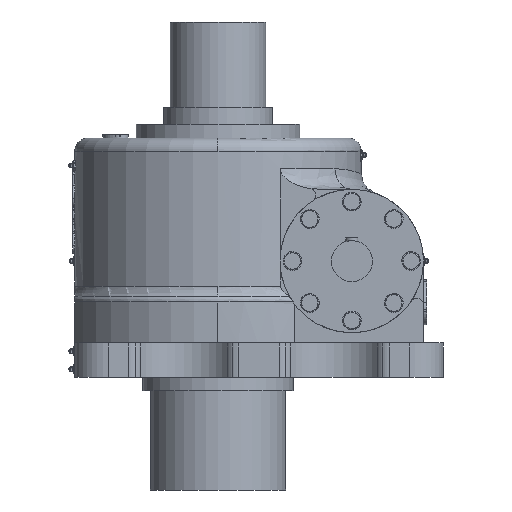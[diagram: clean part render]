
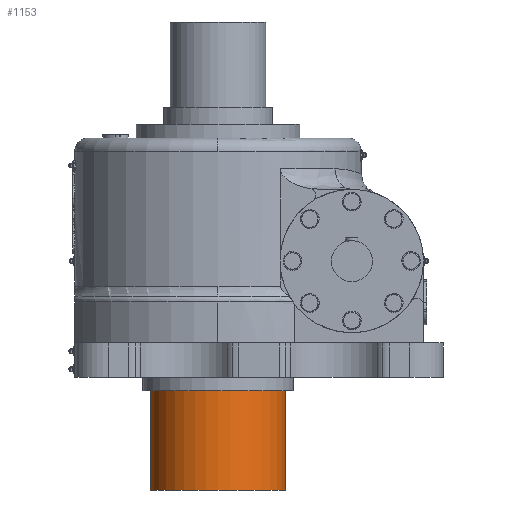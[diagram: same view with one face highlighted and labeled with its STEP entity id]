
A CAD part, front view. The second image highlights one B-rep face of the part: STEP entity #1153.
In plain terms, the highlighted cylindrical face has radius 99 mm (diameter 198 mm), a partial arc.
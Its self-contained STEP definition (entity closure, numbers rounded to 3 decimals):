
#1153=ADVANCED_FACE('',(#3388),#3389,.T.);
#3388=FACE_OUTER_BOUND('',#6354,.T.);
#3389=CYLINDRICAL_SURFACE('',#6355,99.0);
#6354=EDGE_LOOP('',(#14930,#14931,#14932,#14933));
#6355=AXIS2_PLACEMENT_3D('',#14934,#14935,#14936);
#14930=ORIENTED_EDGE('',*,*,#17691,.T.);
#14931=ORIENTED_EDGE('',*,*,#17695,.F.);
#14932=ORIENTED_EDGE('',*,*,#17693,.T.);
#14933=ORIENTED_EDGE('',*,*,#17696,.F.);
#14934=CARTESIAN_POINT('',(0.,0.,-82.5));
#14935=DIRECTION('',(0.,0.,-1.0));
#14936=DIRECTION('',(-1.0,0.,0.0));
#17691=EDGE_CURVE('',#22191,#22192,#22193,.T.);
#17693=EDGE_CURVE('',#22196,#22194,#22197,.T.);
#17695=EDGE_CURVE('',#22196,#22192,#22199,.T.);
#17696=EDGE_CURVE('',#22191,#22194,#22200,.T.);
#22191=VERTEX_POINT('',#32005);
#22192=VERTEX_POINT('',#32006);
#22193=LINE('',#32007,#32008);
#22194=VERTEX_POINT('',#32009);
#22196=VERTEX_POINT('',#32011);
#22197=LINE('',#32012,#32013);
#22199=CIRCLE('',#32015,99.0);
#22200=CIRCLE('',#32016,99.0);
#32005=CARTESIAN_POINT('',(-99.0,0.,0.0));
#32006=CARTESIAN_POINT('',(-99.0,0.,-165.0));
#32007=CARTESIAN_POINT('',(-99.0,0.,-82.5));
#32008=VECTOR('',#36774,1.0);
#32009=CARTESIAN_POINT('',(99.0,0.,0.));
#32011=CARTESIAN_POINT('',(99.0,0.,-165.0));
#32012=CARTESIAN_POINT('',(99.0,0.,-82.5));
#32013=VECTOR('',#36778,1.0);
#32015=AXIS2_PLACEMENT_3D('',#36782,#36783,#36784);
#32016=AXIS2_PLACEMENT_3D('',#36785,#36786,#36787);
#36774=DIRECTION('',(0.,0.,-1.0));
#36778=DIRECTION('',(0.,0.,1.0));
#36782=CARTESIAN_POINT('',(0.,0.,-165.0));
#36783=DIRECTION('',(0.,0.,-1.0));
#36784=DIRECTION('',(-1.0,0.,0.0));
#36785=CARTESIAN_POINT('',(0.0,0.0,0.0));
#36786=DIRECTION('',(0.,0.,1.0));
#36787=DIRECTION('',(-1.0,0.,0.0));
